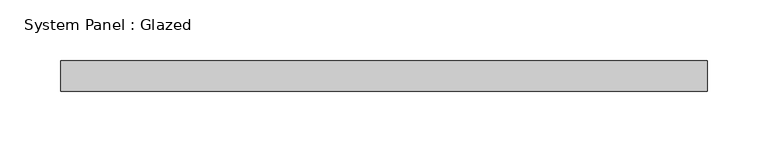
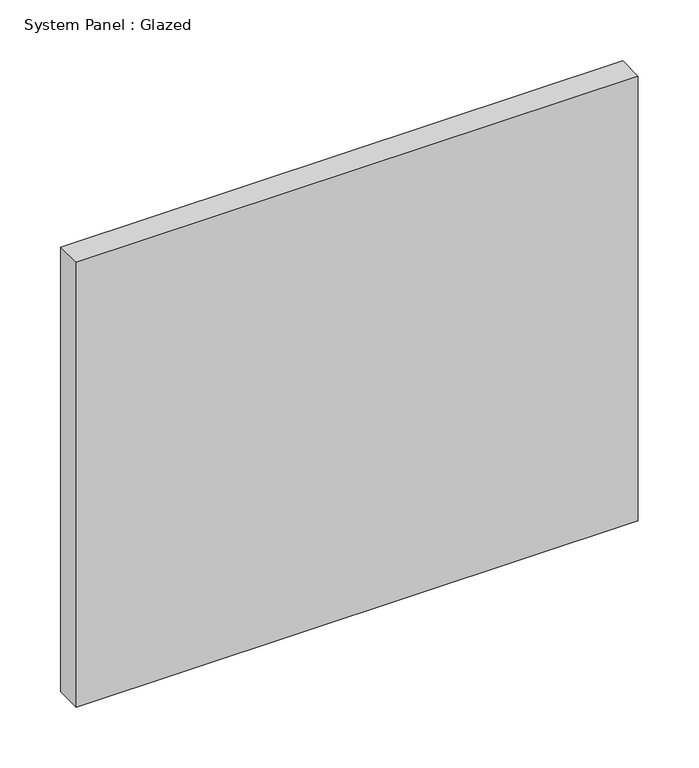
"""IFC4 building model written with IfcOpenShell, lengths in millimetres: plate geometry, System Panel : Glazed."""

from ifc_helpers import new_model, si_unit, origin, origin_with_axes, place, context, project, spatial, polyline, outline, extrude, source, transform, mapped, element, save


def system_panel_glazed_f3e2f1d7(model_context):
    return source(origin(), model_context, "Body", "SweptSolid", [
        extrude(outline(polyline([(266.0950031, -12.5), (-266.0950031, -12.5), (-266.0950031, 12.5), (266.0950031, 12.5), (266.0950031, -12.5)])), origin_with_axes(), (0.0, 0.0, 1.0), 445.0),
    ])


if __name__ == "__main__":
    model = new_model("IFC4")
    model_context = context("Model", 3, world=origin())
    ifc_project = project(units=[si_unit("LENGTHUNIT", "METRE", prefix="MILLI")], contexts=[model_context])
    site = spatial("IfcSite", under=ifc_project)
    building = spatial("IfcBuilding", under=site)
    placement = place(None, origin())
    system_panel_glazed_shape = system_panel_glazed_f3e2f1d7(model_context)
    element("IfcPlate", 1, ObjectType="System Panel : Glazed", at=placement, inside=building, context=model_context, shape_type="MappedRepresentation", body=[
        mapped(system_panel_glazed_shape, transform((0.0, 0.0, 0.0), x_axis=(1.0, 0.0, 0.0), y_axis=(0.0, 1.0, 0.0), z_axis=(0.0, 0.0, 1.0))),
    ])
    save(model, "model.ifc")
